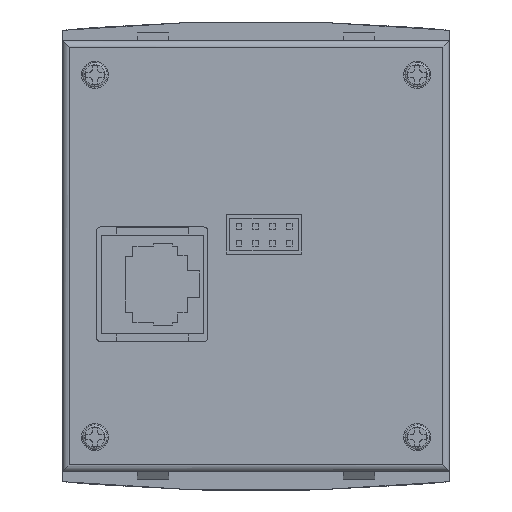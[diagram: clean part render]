
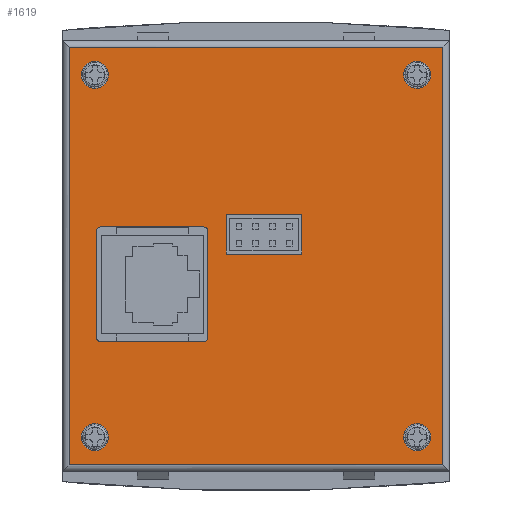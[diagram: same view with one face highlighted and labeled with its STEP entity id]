
A CAD part, left-side view. The second image highlights one B-rep face of the part: STEP entity #1619.
In plain terms, the highlighted planar face has unit normal (-1, 0, 0).
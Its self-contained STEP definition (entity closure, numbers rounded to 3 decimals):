
#1619=ADVANCED_FACE('',(#4823,#4825,#4827,#4829,#4831,#4833,#4835),#4837,.F.);
#4823=FACE_BOUND('',#4824,.T.);
#4824=EDGE_LOOP('',(#7371,#7372,#7373,#7374));
#4825=FACE_BOUND('',#4826,.T.);
#4826=EDGE_LOOP('',(#7375,#7376,#7377,#7378,#7379,#7380,#7381,#7382));
#4827=FACE_BOUND('',#4828,.T.);
#4828=EDGE_LOOP('',(#7383,#7384,#7385,#7386));
#4829=FACE_BOUND('',#4830,.T.);
#4830=EDGE_LOOP('',(#7387));
#4831=FACE_BOUND('',#4832,.T.);
#4832=EDGE_LOOP('',(#7388));
#4833=FACE_BOUND('',#4834,.T.);
#4834=EDGE_LOOP('',(#7389));
#4835=FACE_BOUND('',#4836,.T.);
#4836=EDGE_LOOP('',(#7390));
#4837=PLANE('',#4838);
#4838=AXIS2_PLACEMENT_3D('',#4839,#4840,#4841);
#4839=CARTESIAN_POINT('',(0.,0.,0.));
#4840=DIRECTION('',(1.,0.,0.));
#4841=DIRECTION('',(0.,1.,0.));
#7371=ORIENTED_EDGE('',*,*,#8895,.F.);
#7372=ORIENTED_EDGE('',*,*,#8950,.T.);
#7373=ORIENTED_EDGE('',*,*,#8938,.F.);
#7374=ORIENTED_EDGE('',*,*,#8951,.T.);
#7375=ORIENTED_EDGE('',*,*,#8952,.T.);
#7376=ORIENTED_EDGE('',*,*,#8953,.T.);
#7377=ORIENTED_EDGE('',*,*,#8954,.T.);
#7378=ORIENTED_EDGE('',*,*,#8955,.T.);
#7379=ORIENTED_EDGE('',*,*,#8956,.T.);
#7380=ORIENTED_EDGE('',*,*,#8957,.T.);
#7381=ORIENTED_EDGE('',*,*,#8958,.T.);
#7382=ORIENTED_EDGE('',*,*,#8959,.T.);
#7383=ORIENTED_EDGE('',*,*,#8960,.T.);
#7384=ORIENTED_EDGE('',*,*,#8961,.T.);
#7385=ORIENTED_EDGE('',*,*,#8962,.T.);
#7386=ORIENTED_EDGE('',*,*,#8963,.T.);
#7387=ORIENTED_EDGE('',*,*,#8964,.T.);
#7388=ORIENTED_EDGE('',*,*,#8965,.T.);
#7389=ORIENTED_EDGE('',*,*,#8966,.T.);
#7390=ORIENTED_EDGE('',*,*,#8967,.T.);
#8895=EDGE_CURVE('',#10215,#10217,#10218,.T.);
#8938=EDGE_CURVE('',#10288,#10290,#10291,.T.);
#8950=EDGE_CURVE('',#10215,#10290,#10307,.F.);
#8951=EDGE_CURVE('',#10288,#10217,#10308,.F.);
#8952=EDGE_CURVE('',#10309,#10310,#10311,.T.);
#8953=EDGE_CURVE('',#10310,#10312,#10313,.F.);
#8954=EDGE_CURVE('',#10312,#10314,#10315,.T.);
#8955=EDGE_CURVE('',#10314,#10316,#10317,.F.);
#8956=EDGE_CURVE('',#10316,#10318,#10319,.T.);
#8957=EDGE_CURVE('',#10318,#10320,#10321,.F.);
#8958=EDGE_CURVE('',#10320,#10322,#10323,.T.);
#8959=EDGE_CURVE('',#10322,#10309,#10324,.F.);
#8960=EDGE_CURVE('',#10325,#10326,#10327,.T.);
#8961=EDGE_CURVE('',#10326,#10328,#10329,.T.);
#8962=EDGE_CURVE('',#10328,#10330,#10331,.T.);
#8963=EDGE_CURVE('',#10330,#10325,#10332,.T.);
#8964=EDGE_CURVE('',#10333,#10333,#10334,.F.);
#8965=EDGE_CURVE('',#10335,#10335,#10336,.F.);
#8966=EDGE_CURVE('',#10337,#10337,#10338,.F.);
#8967=EDGE_CURVE('',#10339,#10339,#10340,.F.);
#10215=VERTEX_POINT('',#12948);
#10217=VERTEX_POINT('',#12953);
#10218=LINE('',#12954,#12955);
#10288=VERTEX_POINT('',#13109);
#10290=VERTEX_POINT('',#13114);
#10291=LINE('',#13115,#13116);
#10307=LINE('',#13156,#13157);
#10308=LINE('',#13159,#13160);
#10309=VERTEX_POINT('',#13162);
#10310=VERTEX_POINT('',#13163);
#10311=LINE('',#13164,#13165);
#10312=VERTEX_POINT('',#13167);
#10313=CIRCLE('',#13168,0.6);
#10314=VERTEX_POINT('',#13172);
#10315=LINE('',#13173,#13174);
#10316=VERTEX_POINT('',#13176);
#10317=CIRCLE('',#13177,0.6);
#10318=VERTEX_POINT('',#13181);
#10319=LINE('',#13182,#13183);
#10320=VERTEX_POINT('',#13185);
#10321=CIRCLE('',#13186,0.6);
#10322=VERTEX_POINT('',#13190);
#10323=LINE('',#13191,#13192);
#10324=CIRCLE('',#13194,0.6);
#10325=VERTEX_POINT('',#13198);
#10326=VERTEX_POINT('',#13199);
#10327=LINE('',#13200,#13201);
#10328=VERTEX_POINT('',#13203);
#10329=LINE('',#13204,#13205);
#10330=VERTEX_POINT('',#13207);
#10331=LINE('',#13208,#13209);
#10332=LINE('',#13211,#13212);
#10333=VERTEX_POINT('',#13214);
#10334=CIRCLE('',#13215,2.1);
#10335=VERTEX_POINT('',#13219);
#10336=CIRCLE('',#13220,2.1);
#10337=VERTEX_POINT('',#13224);
#10338=CIRCLE('',#13225,2.1);
#10339=VERTEX_POINT('',#13229);
#10340=CIRCLE('',#13230,2.1);
#12948=CARTESIAN_POINT('',(0.,-29.,32.4));
#12953=CARTESIAN_POINT('',(0.,-29.,-32.4));
#12954=CARTESIAN_POINT('',(0.,-29.,32.4));
#12955=VECTOR('',#12956,1.);
#12956=DIRECTION('',(0.,0.,-1.));
#13109=CARTESIAN_POINT('',(0.,29.,-32.4));
#13114=CARTESIAN_POINT('',(0.,29.,32.4));
#13115=CARTESIAN_POINT('',(0.,29.,-32.4));
#13116=VECTOR('',#13117,1.);
#13117=DIRECTION('',(0.,0.,1.));
#13156=CARTESIAN_POINT('',(0.,29.,32.4));
#13157=VECTOR('',#13158,1.);
#13158=DIRECTION('',(0.,-1.,0.));
#13159=CARTESIAN_POINT('',(0.,-29.,-32.4));
#13160=VECTOR('',#13161,1.);
#13161=DIRECTION('',(0.,1.,0.));
#13162=CARTESIAN_POINT('',(0.,8.1,-13.3));
#13163=CARTESIAN_POINT('',(0.,24.1,-13.3));
#13164=CARTESIAN_POINT('',(0.,8.1,-13.3));
#13165=VECTOR('',#13166,1.);
#13166=DIRECTION('',(0.,1.,0.));
#13167=CARTESIAN_POINT('',(0.,24.7,-12.7));
#13168=AXIS2_PLACEMENT_3D('',#13169,#13170,#13171);
#13169=CARTESIAN_POINT('',(0.,24.1,-12.7));
#13170=DIRECTION('',(-1.,0.,0.));
#13171=DIRECTION('',(0.,1.,0.));
#13172=CARTESIAN_POINT('',(0.,24.7,3.9));
#13173=CARTESIAN_POINT('',(0.,24.7,-12.7));
#13174=VECTOR('',#13175,1.);
#13175=DIRECTION('',(0.,0.,1.));
#13176=CARTESIAN_POINT('',(0.,24.1,4.5));
#13177=AXIS2_PLACEMENT_3D('',#13178,#13179,#13180);
#13178=CARTESIAN_POINT('',(0.,24.1,3.9));
#13179=DIRECTION('',(-1.,0.,0.));
#13180=DIRECTION('',(0.,0.,1.));
#13181=CARTESIAN_POINT('',(0.,8.1,4.5));
#13182=CARTESIAN_POINT('',(0.,24.1,4.5));
#13183=VECTOR('',#13184,1.);
#13184=DIRECTION('',(0.,-1.,0.));
#13185=CARTESIAN_POINT('',(0.,7.5,3.9));
#13186=AXIS2_PLACEMENT_3D('',#13187,#13188,#13189);
#13187=CARTESIAN_POINT('',(0.,8.1,3.9));
#13188=DIRECTION('',(-1.,0.,0.));
#13189=DIRECTION('',(0.,-1.,0.));
#13190=CARTESIAN_POINT('',(0.,7.5,-12.7));
#13191=CARTESIAN_POINT('',(0.,7.5,3.9));
#13192=VECTOR('',#13193,1.);
#13193=DIRECTION('',(0.,0.,-1.));
#13194=AXIS2_PLACEMENT_3D('',#13195,#13196,#13197);
#13195=CARTESIAN_POINT('',(0.,8.1,-12.7));
#13196=DIRECTION('',(-1.,0.,0.));
#13197=DIRECTION('',(0.,0.,-1.));
#13198=CARTESIAN_POINT('',(0.,4.6,6.5));
#13199=CARTESIAN_POINT('',(0.,-7.1,6.5));
#13200=CARTESIAN_POINT('',(0.,4.6,6.5));
#13201=VECTOR('',#13202,1.);
#13202=DIRECTION('',(0.,-1.,0.));
#13203=CARTESIAN_POINT('',(0.,-7.1,0.3));
#13204=CARTESIAN_POINT('',(0.,-7.1,6.5));
#13205=VECTOR('',#13206,1.);
#13206=DIRECTION('',(0.,0.,-1.));
#13207=CARTESIAN_POINT('',(0.,4.6,0.3));
#13208=CARTESIAN_POINT('',(0.,-7.1,0.3));
#13209=VECTOR('',#13210,1.);
#13210=DIRECTION('',(0.,1.,0.));
#13211=CARTESIAN_POINT('',(0.,4.6,0.3));
#13212=VECTOR('',#13213,1.);
#13213=DIRECTION('',(0.,0.,1.));
#13214=CARTESIAN_POINT('',(0.,22.9,28.1));
#13215=AXIS2_PLACEMENT_3D('',#13216,#13217,#13218);
#13216=CARTESIAN_POINT('',(0.,25.,28.1));
#13217=DIRECTION('',(-1.,0.,0.));
#13218=DIRECTION('',(0.,-1.,0.));
#13219=CARTESIAN_POINT('',(0.,-27.1,28.1));
#13220=AXIS2_PLACEMENT_3D('',#13221,#13222,#13223);
#13221=CARTESIAN_POINT('',(0.,-25.,28.1));
#13222=DIRECTION('',(-1.,0.,0.));
#13223=DIRECTION('',(0.,-1.,0.));
#13224=CARTESIAN_POINT('',(0.,22.9,-28.1));
#13225=AXIS2_PLACEMENT_3D('',#13226,#13227,#13228);
#13226=CARTESIAN_POINT('',(0.,25.,-28.1));
#13227=DIRECTION('',(-1.,0.,0.));
#13228=DIRECTION('',(0.,-1.,0.));
#13229=CARTESIAN_POINT('',(0.,-27.1,-28.1));
#13230=AXIS2_PLACEMENT_3D('',#13231,#13232,#13233);
#13231=CARTESIAN_POINT('',(0.,-25.,-28.1));
#13232=DIRECTION('',(-1.,0.,0.));
#13233=DIRECTION('',(0.,-1.,0.));
